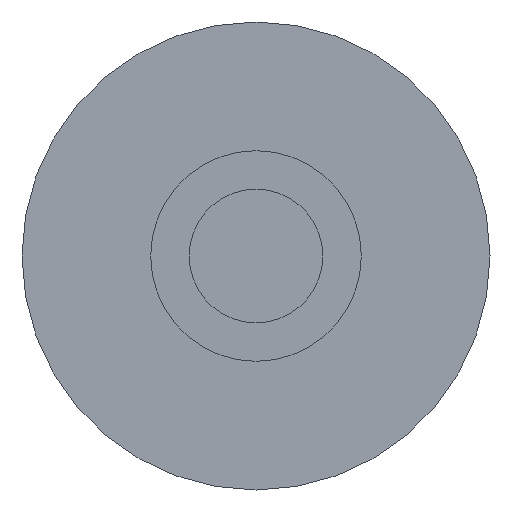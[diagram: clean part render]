
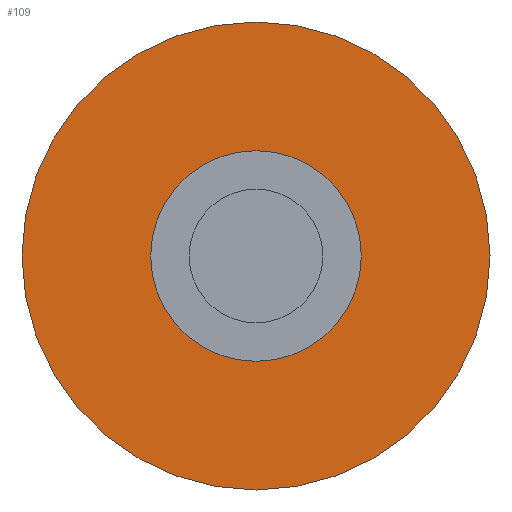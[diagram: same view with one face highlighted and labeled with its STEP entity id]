
A CAD part, left-side view. The second image highlights one B-rep face of the part: STEP entity #109.
In plain terms, the highlighted planar face has unit normal (-1, 0, 0).
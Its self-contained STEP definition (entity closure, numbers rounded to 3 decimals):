
#31 = CYLINDRICAL_SURFACE('',#32,1.4);
#32 = AXIS2_PLACEMENT_3D('',#33,#34,#35);
#33 = CARTESIAN_POINT('',(14.1,0.,-8.1));
#34 = DIRECTION('',(1.,0.,0.));
#35 = DIRECTION('',(-0.,0.,1.));
#56 = VERTEX_POINT('',#57);
#57 = CARTESIAN_POINT('',(14.1,0.,-6.7));
#78 = EDGE_CURVE('',#56,#56,#79,.T.);
#79 = SURFACE_CURVE('',#80,(#85,#92),.PCURVE_S1.);
#80 = CIRCLE('',#81,1.4);
#81 = AXIS2_PLACEMENT_3D('',#82,#83,#84);
#82 = CARTESIAN_POINT('',(14.1,0.,-8.1));
#83 = DIRECTION('',(1.,0.,0.));
#84 = DIRECTION('',(-0.,0.,1.));
#85 = PCURVE('',#31,#86);
#86 = DEFINITIONAL_REPRESENTATION('',(#87),#91);
#87 = LINE('',#88,#89);
#88 = CARTESIAN_POINT('',(0.,0.));
#89 = VECTOR('',#90,1.);
#90 = DIRECTION('',(1.,0.));
#91 = ( GEOMETRIC_REPRESENTATION_CONTEXT(2) 
PARAMETRIC_REPRESENTATION_CONTEXT() REPRESENTATION_CONTEXT('2D SPACE',''
  ) );
#92 = PCURVE('',#93,#98);
#93 = PLANE('',#94);
#94 = AXIS2_PLACEMENT_3D('',#95,#96,#97);
#95 = CARTESIAN_POINT('',(14.1,0.,-8.1));
#96 = DIRECTION('',(1.,0.,0.));
#97 = DIRECTION('',(-0.,0.,1.));
#98 = DEFINITIONAL_REPRESENTATION('',(#99),#103);
#99 = CIRCLE('',#100,1.4);
#100 = AXIS2_PLACEMENT_2D('',#101,#102);
#101 = CARTESIAN_POINT('',(0.,0.));
#102 = DIRECTION('',(1.,0.));
#103 = ( GEOMETRIC_REPRESENTATION_CONTEXT(2) 
PARAMETRIC_REPRESENTATION_CONTEXT() REPRESENTATION_CONTEXT('2D SPACE',''
  ) );
#109 = ADVANCED_FACE('',(#110,#113),#93,.F.);
#110 = FACE_BOUND('',#111,.F.);
#111 = EDGE_LOOP('',(#112));
#112 = ORIENTED_EDGE('',*,*,#78,.T.);
#113 = FACE_BOUND('',#114,.F.);
#114 = EDGE_LOOP('',(#115));
#115 = ORIENTED_EDGE('',*,*,#116,.F.);
#116 = EDGE_CURVE('',#117,#117,#119,.T.);
#117 = VERTEX_POINT('',#118);
#118 = CARTESIAN_POINT('',(14.1,0.,-7.47));
#119 = SURFACE_CURVE('',#120,(#125,#132),.PCURVE_S1.);
#120 = CIRCLE('',#121,0.63);
#121 = AXIS2_PLACEMENT_3D('',#122,#123,#124);
#122 = CARTESIAN_POINT('',(14.1,0.,-8.1));
#123 = DIRECTION('',(1.,0.,0.));
#124 = DIRECTION('',(-0.,0.,1.));
#125 = PCURVE('',#93,#126);
#126 = DEFINITIONAL_REPRESENTATION('',(#127),#131);
#127 = CIRCLE('',#128,0.63);
#128 = AXIS2_PLACEMENT_2D('',#129,#130);
#129 = CARTESIAN_POINT('',(0.,0.));
#130 = DIRECTION('',(1.,0.));
#131 = ( GEOMETRIC_REPRESENTATION_CONTEXT(2) 
PARAMETRIC_REPRESENTATION_CONTEXT() REPRESENTATION_CONTEXT('2D SPACE',''
  ) );
#132 = PCURVE('',#133,#138);
#133 = CYLINDRICAL_SURFACE('',#134,0.63);
#134 = AXIS2_PLACEMENT_3D('',#135,#136,#137);
#135 = CARTESIAN_POINT('',(11.,0.,-8.1));
#136 = DIRECTION('',(1.,0.,0.));
#137 = DIRECTION('',(-0.,0.,1.));
#138 = DEFINITIONAL_REPRESENTATION('',(#139),#143);
#139 = LINE('',#140,#141);
#140 = CARTESIAN_POINT('',(0.,3.1));
#141 = VECTOR('',#142,1.);
#142 = DIRECTION('',(1.,0.));
#143 = ( GEOMETRIC_REPRESENTATION_CONTEXT(2) 
PARAMETRIC_REPRESENTATION_CONTEXT() REPRESENTATION_CONTEXT('2D SPACE',''
  ) );
